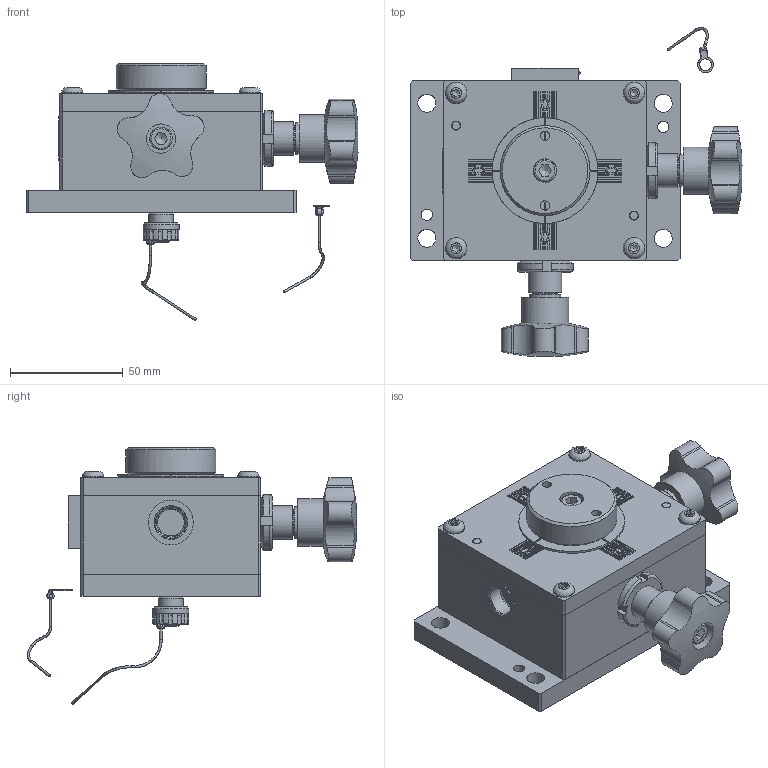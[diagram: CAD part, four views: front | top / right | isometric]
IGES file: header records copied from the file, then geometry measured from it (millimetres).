
Global section: file name: 146.00-DX; native system: Autodesk Inventor 2019; preprocessor: unknown; author: AP; date: 20200220.145359; units: millimetre
Bounding box: 147.51 x 146.23 x 114.1 mm (x, y, z)
Volume: 410427.4 mm3; surface area: 140248.5 mm2
Topology: 48 solids, 48 shells, 1117 faces, 2898 edges, 1976 vertices
Faces by surface type: bspline 1117
